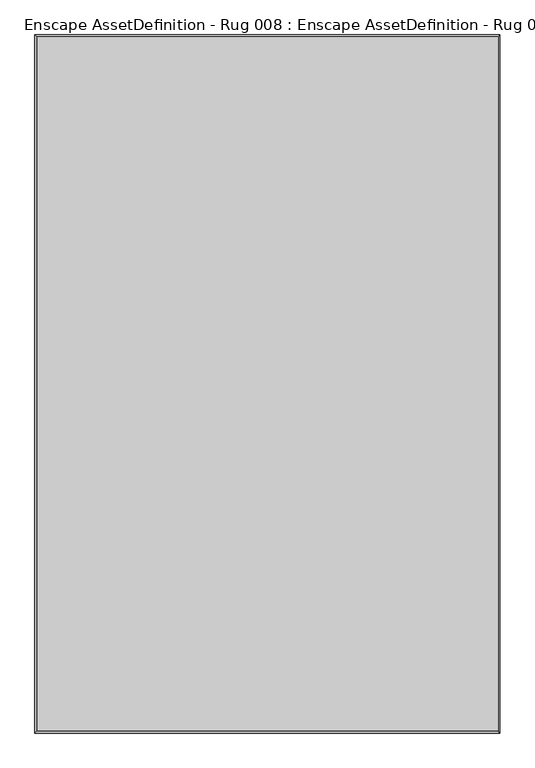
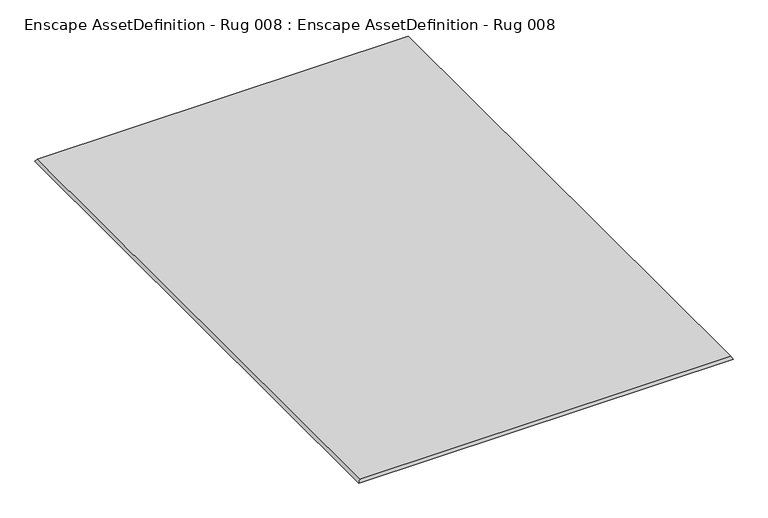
"""IFC4 building model written with IfcOpenShell, lengths in millimetres: geographic element geometry, Enscape AssetDefinition - Rug 008 : Enscape AssetDefinition - Rug 008."""

from ifc_helpers import new_model, si_unit, origin, place, context, project, spatial, triangles, source, transform, mapped, element, save


def enscape_assetdefinition_rug_008_enscape_assetdefinition_rug_9687f430(model_context):
    return source(origin(), model_context, "Body", "Tessellation", [
        triangles([(992.2863796, -1492.2863834, 12.9995199), (992.2863796, 1492.2863834, 13.0004794), (-992.2863796, 1492.2863834, 13.0004794), (-992.2863796, -1492.2863834, 12.9995199), (-1000.0000076, 1500.0000114, 0.00048), (1000.0000076, -1500.0000114, -0.00048), (1000.0000076, 1500.0000114, 0.00048), (-1000.0000076, -1500.0000114, -0.00048)], [[6, 8, 5], [4, 8, 6], [2, 7, 5], [4, 3, 5], [1, 2, 3], [1, 6, 7], [6, 5, 7], [4, 6, 1], [2, 5, 3], [4, 5, 8], [1, 3, 4], [1, 7, 2]]),
    ])


if __name__ == "__main__":
    model = new_model("IFC4")
    model_context = context("Model", 3, world=origin())
    ifc_project = project(units=[si_unit("LENGTHUNIT", "METRE", prefix="MILLI")], contexts=[model_context])
    site = spatial("IfcSite", under=ifc_project)
    building = spatial("IfcBuilding", under=site)
    placement = place(None, origin())
    enscape_assetdefinition_rug_008_enscape_assetdefinition_rug_shape = enscape_assetdefinition_rug_008_enscape_assetdefinition_rug_9687f430(model_context)
    element("IfcGeographicElement", 1, ObjectType="Enscape AssetDefinition - Rug 008 : Enscape AssetDefinition - Rug 008", at=placement, inside=building, context=model_context, shape_type="MappedRepresentation", body=[
        mapped(enscape_assetdefinition_rug_008_enscape_assetdefinition_rug_shape, transform((0.0, 0.0, 0.0), x_axis=(1.0, 0.0, 0.0), y_axis=(0.0, 1.0, 0.0), z_axis=(0.0, 0.0, 1.0))),
    ])
    save(model, "model.ifc")
